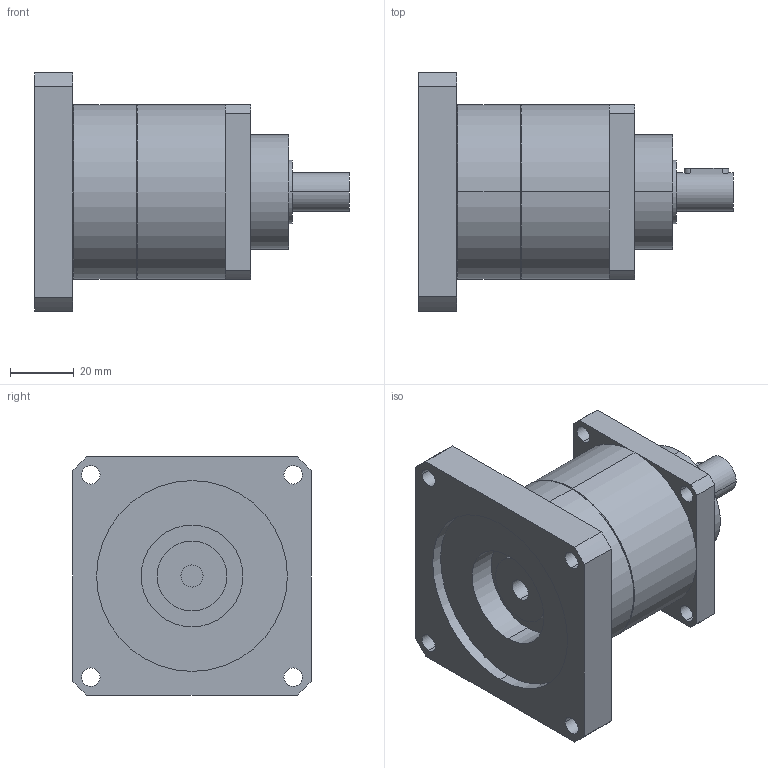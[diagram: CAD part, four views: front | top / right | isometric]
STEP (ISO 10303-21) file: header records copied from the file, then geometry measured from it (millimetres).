
FILE_DESCRIPTION(('CoCreate Modeling STEP Export'),'2;1');
FILE_NAME('GPT55_ig-3-4-5-7-10_12_B5A_7_P15.stp','2014-08-25T14:33:33',(''),(''),'CoCreate Modeling STEP processor for AP214 (Solid Model)','CoCreate Modeling 16.00C 25-Feb-2009 (C) Parametric Technology GmbH','');
FILE_SCHEMA(('AUTOMOTIVE_DESIGN { 1 0 10303 214 1 1 1 1 }'));
Length unit declared in the file: millimetre
Products named in the file (2): GPT55_ig-3-4-5-7-10_12_B5A_7_P15
Assembly tree (1 placements, depth 2):
  GPT55_ig-3-4-5-7-10_12_B5A_7_P15
    GPT55_ig-3-4-5-7-10_12_B5A_7_P15
Bounding box: 99 x 75 x 75 mm (x, y, z)
Volume: 201174.8 mm3; surface area: 31602 mm2
Topology: 1 solids, 1 shells, 77 faces, 204 edges, 139 vertices
Faces by surface type: cylinder 46, plane 27, cone 4
Entity records: 2515 total; most frequent: CARTESIAN_POINT 710, ORIENTED_EDGE 408, DIRECTION 318, EDGE_CURVE 204, VERTEX_POINT 139, AXIS2_PLACEMENT_3D 117, EDGE_LOOP 103, VECTOR 84
